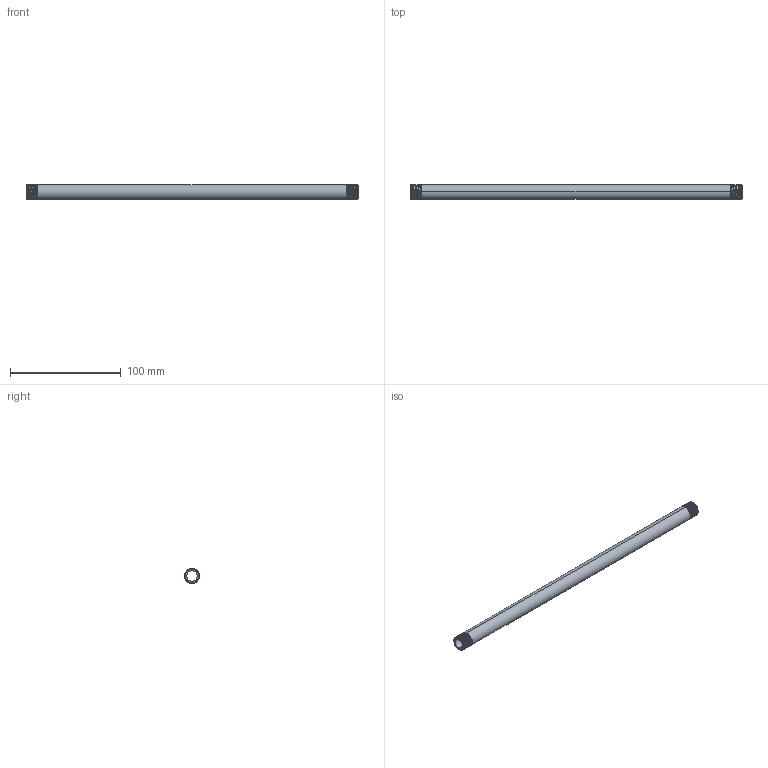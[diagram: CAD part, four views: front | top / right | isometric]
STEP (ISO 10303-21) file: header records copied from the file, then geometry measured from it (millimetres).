
FILE_DESCRIPTION (( 'STEP AP203' ), '1' );
FILE_NAME ('3D_R210_1-4x300_17185942.STEP', '2024-08-16T14:20:43', ( '' ), ( '' ), 'SwSTEP 2.0', 'SolidWorks 2024', '' );
FILE_SCHEMA (( 'CONFIG_CONTROL_DESIGN' ));
Length unit declared in the file: millimetre
Products named in the file (1): 3D_R210_1-4x300_17185942
Bounding box: 300 x 13.48 x 13.5 mm (x, y, z)
Volume: 21301.6 mm3; surface area: 22175.9 mm2
Topology: 1 solids, 1 shells, 52 faces, 144 edges, 94 vertices
Faces by surface type: cone 38, bspline 6, cylinder 4, plane 4
Entity records: 7161 total; most frequent: CARTESIAN_POINT 5939, ORIENTED_EDGE 288, DIRECTION 166, EDGE_CURVE 144, VERTEX_POINT 94, B_SPLINE_CURVE_WITH_KNOTS 76, AXIS2_PLACEMENT_3D 59, EDGE_LOOP 54
